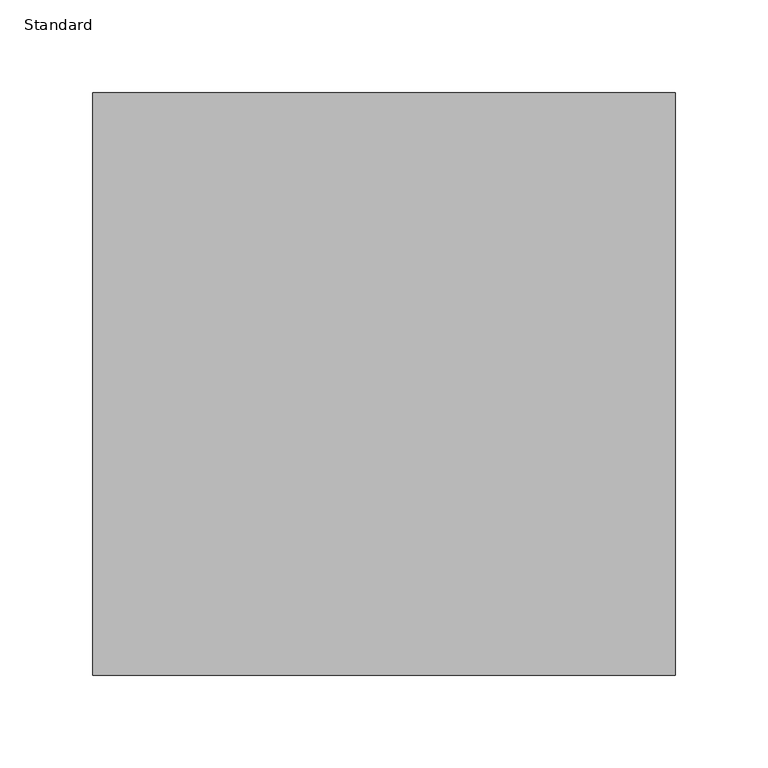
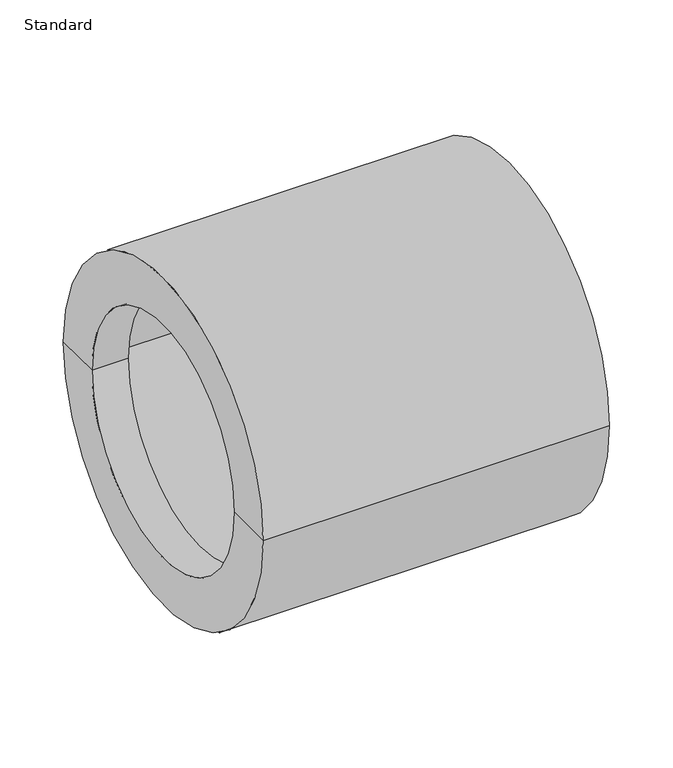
"""IFC4 building model written with IfcOpenShell, lengths in millimetres: pipe fitting geometry, Durapipe_PipeFitting_PVC_ReducingBush : Standard."""

from ifc_helpers import new_model, si_unit, frame, origin, place, context, project, spatial, polyline, circle_curve, source, transform, mapped, element, save
from ifc_brep_helpers import plane_surface, cylinder_surface, revolved_surface, advanced_brep


def standard_07521f27(model_context):
    return source(origin(), model_context, "Body", "AdvancedBrep", [
        advanced_brep(
        [(-33.0, -112.5, 0.0), (-33.0, 112.5, 0.0), (-33.0, 157.5, 0.0), (-33.0, -157.5, 0.0), (0.0, -112.5, 0.0), (0.0, 112.5, 0.0), (0.0, -125.0, 0.0), (0.0, 125.0, 0.0), (282.0, -125.0, 0.0), (282.0, 125.0, 0.0), (282.0, -157.5, 0.0), (282.0, 157.5, 0.0)],
        [
            (0, 1, circle_curve(frame((-33.0, 0.0, 0.0), z_axis=(1.0, 0.0, 0.0), x_axis=(0.0, 1.0, 0.0)), 112.5)),
            (1, 2),
            (2, 3, circle_curve(frame((-33.0, 0.0, 0.0), z_axis=(-1.0, 0.0, 0.0), x_axis=(0.0, 1.0, 0.0)), 157.5)),
            (3, 0),
            (1, 0, circle_curve(frame((-33.0, 0.0, 0.0), z_axis=(1.0, 0.0, 0.0), x_axis=(0.0, 1.0, 0.0)), 112.5)),
            (3, 2, circle_curve(frame((-33.0, 0.0, 0.0), z_axis=(-1.0, 0.0, 0.0), x_axis=(0.0, 1.0, 0.0)), 157.5)),
            (4, 5, circle_curve(frame((0.0, 0.0, 0.0), z_axis=(1.0, 0.0, 0.0), x_axis=(0.0, 1.0, 0.0)), 112.5)),
            (5, 1),
            (0, 4),
            (5, 4, circle_curve(frame((0.0, 0.0, 0.0), z_axis=(1.0, 0.0, 0.0), x_axis=(0.0, 1.0, 0.0)), 112.5)),
            (6, 7, circle_curve(frame((0.0, 0.0, 0.0), z_axis=(1.0, 0.0, 0.0), x_axis=(0.0, 1.0, 0.0)), 125.0)),
            (7, 5),
            (4, 6),
            (7, 6, circle_curve(frame((0.0, 0.0, 0.0), z_axis=(1.0, 0.0, 0.0), x_axis=(0.0, 1.0, 0.0)), 125.0)),
            (8, 9, circle_curve(frame((282.0, 0.0, 0.0), z_axis=(1.0, 0.0, 0.0), x_axis=(0.0, 1.0, 0.0)), 125.0)),
            (9, 7),
            (6, 8),
            (9, 8, circle_curve(frame((282.0, 0.0, 0.0), z_axis=(1.0, 0.0, 0.0), x_axis=(0.0, 1.0, 0.0)), 125.0)),
            (10, 11, circle_curve(frame((282.0, 0.0, 0.0), z_axis=(1.0, 0.0, 0.0), x_axis=(0.0, 1.0, 0.0)), 157.5)),
            (11, 9),
            (8, 10),
            (11, 10, circle_curve(frame((282.0, 0.0, 0.0), z_axis=(1.0, 0.0, 0.0), x_axis=(0.0, 1.0, 0.0)), 157.5)),
            (2, 11),
            (10, 3),
        ],
        [
            plane_surface(frame((-33.0, 0.0, 0.0), z_axis=(-1.0, 0.0, 0.0), x_axis=(0.0, 1.0, 0.0))),
            revolved_surface(polyline([(-33.0, 112.5, 0.0), (0.0, 112.5, 0.0)]), (2268.0, 0.0, 0.0), (-1.0, 0.0, 0.0)),
            plane_surface(frame((0.0, 0.0, 0.0), z_axis=(1.0, 0.0, 0.0), x_axis=(0.0, 1.0, 0.0))),
            revolved_surface(polyline([(0.0, 125.0, 0.0), (282.0, 125.0, 0.0)]), (2268.0, 0.0, 0.0), (-1.0, 0.0, 0.0)),
            plane_surface(frame((282.0, 0.0, 0.0), z_axis=(1.0, 0.0, 0.0), x_axis=(0.0, 1.0, 0.0))),
            cylinder_surface(frame((2268.0, 0.0, 0.0), z_axis=(-1.0, 0.0, 0.0), x_axis=(0.0, 1.0, 0.0)), 157.5),
        ],
        [
            (0, [[1, 2, 3, 4]]),
            (0, [[5, -4, 6, -2]]),
            (1, [[7, 8, -1, 9]]),
            (1, [[10, -9, -5, -8]]),
            (2, [[11, 12, -7, 13]]),
            (2, [[14, -13, -10, -12]]),
            (3, [[15, 16, -11, 17]]),
            (3, [[18, -17, -14, -16]]),
            (4, [[19, 20, -15, 21]]),
            (4, [[22, -21, -18, -20]]),
            (5, [[-3, 23, -19, 24]]),
            (5, [[-6, -24, -22, -23]]),
        ],
    ),
    ])


if __name__ == "__main__":
    model = new_model("IFC4")
    model_context = context("Model", 3, world=origin())
    ifc_project = project(units=[si_unit("LENGTHUNIT", "METRE", prefix="MILLI")], contexts=[model_context])
    site = spatial("IfcSite", under=ifc_project)
    building = spatial("IfcBuilding", under=site)
    placement = place(None, origin())
    standard_shape = standard_07521f27(model_context)
    element("IfcPipeFitting", 1, ObjectType="Durapipe_PipeFitting_PVC_ReducingBush : Standard", at=placement, inside=building, context=model_context, shape_type="MappedRepresentation", body=[
        mapped(standard_shape, transform((0.0, 0.0, 0.0), x_axis=(1.0, 0.0, 0.0), y_axis=(0.0, 1.0, 0.0), z_axis=(0.0, 0.0, 1.0))),
    ])
    save(model, "model.ifc")
